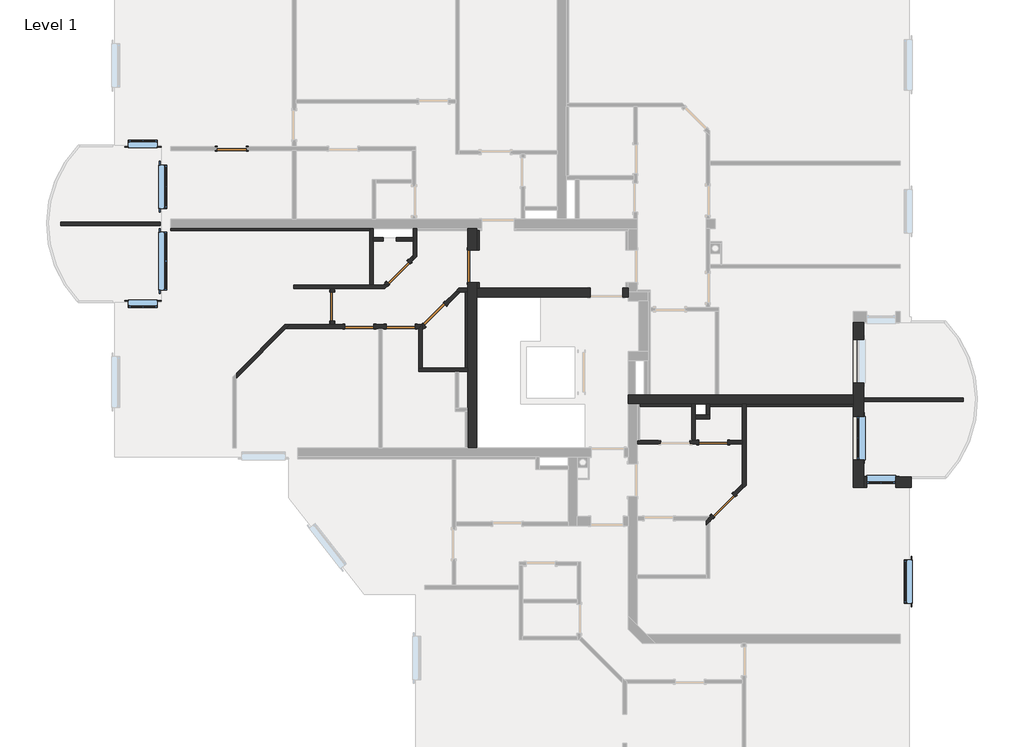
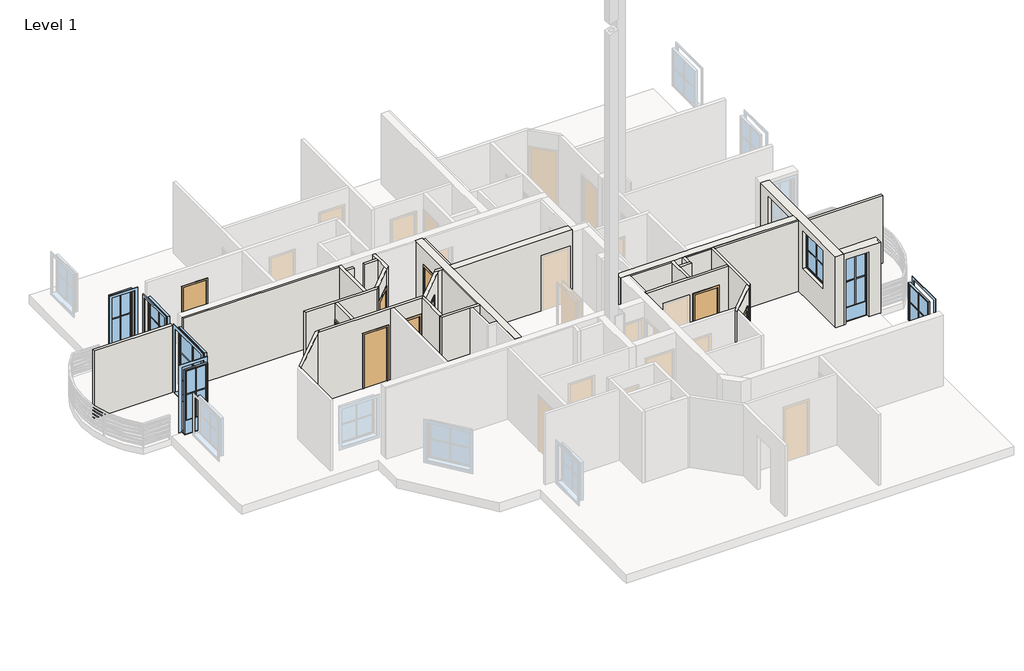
# One storey, part 2 of 4: 32 walls, 9 doors, 7 windows.
"""IFC4 building model written with IfcOpenShell, lengths in millimetres."""

from ifc_helpers import new_model, si_unit, frame, origin, place, context, project, spatial, polyline, outline, extrude, faceted_brep, transform, mapped, element, save
from components import standard_door_sd_800x2000_6a16926d, standard_door_sd_800x2000_80f4ff25, standard_door_sd_900x2000_a6683946, standard_window_with_mullions_80486b60, window_1_87741a49, window_2_4fa60929, window_2_775565f5

model = new_model("IFC4")

# Units and contexts
model_context = context("Model", 3, world=origin())
ifc_project = project(units=[si_unit("LENGTHUNIT", "METRE", prefix="MILLI")], contexts=[model_context])

# Site, building, storey
site = spatial("IfcSite", under=ifc_project)
building = spatial("IfcBuilding", under=site)
storey = spatial("IfcBuildingStorey", under=building, Name="Level 1", Elevation=2950.0)

# Doors
placement = place(None, origin())
standard_door_sd_800x2000_shape = standard_door_sd_800x2000_6a16926d(model_context)
element("IfcDoor", 1, ObjectType="Standard Door : SD 800x2000", at=placement, inside=storey, context=model_context, shape_type="MappedRepresentation", body=[
    mapped(standard_door_sd_800x2000_shape, transform((4190.1336236, -3425.7517839, 2950.0), x_axis=(0.7071067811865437, 0.7071067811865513, 0.0), y_axis=(-0.7071067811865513, 0.7071067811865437, 0.0), z_axis=(0.0, 0.0, 1.0))),
])
element("IfcDoor", 2, ObjectType="Standard Door : SD 800x2000", at=placement, inside=storey, context=model_context, shape_type="MappedRepresentation", body=[
    mapped(standard_door_sd_800x2000_shape, transform((3909.4426418, -1682.3709459, 2950.0), x_axis=(1.0, 0.0, 0.0), y_axis=(0.0, 1.0, 0.0), z_axis=(0.0, 0.0, 1.0))),
])
element("IfcDoor", 3, ObjectType="Standard Door : SD 800x2000", at=placement, inside=storey, context=model_context, shape_type="MappedRepresentation", body=[
    mapped(standard_door_sd_800x2000_shape, transform((-6585.2845029, 2059.6332752, 2950.0), x_axis=(0.0, -0.9999999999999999, 0.0), y_axis=(0.9999999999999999, 0.0, 0.0), z_axis=(0.0, 0.0, 1.0))),
])
element("IfcDoor", 4, ObjectType="Standard Door : SD 800x2000", at=placement, inside=storey, context=model_context, shape_type="MappedRepresentation", body=[
    mapped(standard_door_sd_800x2000_shape, transform((-3761.9880664, 1834.1307468, 2950.0), x_axis=(-0.7071067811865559, -0.7071067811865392, 0.0), y_axis=(0.7071067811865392, -0.7071067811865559, 0.0), z_axis=(0.0, 0.0, 1.0))),
])
element("IfcDoor", 5, ObjectType="Standard Door : SD 800x2000", at=placement, inside=storey, context=model_context, shape_type="MappedRepresentation", body=[
    mapped(standard_door_sd_800x2000_shape, transform((-9362.1962165, 6417.6290541, 2950.0), x_axis=(1.0, 0.0, 0.0), y_axis=(0.0, 1.0, 0.0), z_axis=(0.0, 0.0, 1.0))),
])
standard_door_sd_800x2000_2_shape = standard_door_sd_800x2000_80f4ff25(model_context)
element("IfcDoor", 6, ObjectType="Standard Door : SD 800x2000", at=placement, inside=storey, context=model_context, shape_type="MappedRepresentation", body=[
    mapped(standard_door_sd_800x2000_2_shape, transform((-4767.8017932, 3001.4477772, 2950.0), x_axis=(-0.7071067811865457, -0.7071067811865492, 0.0), y_axis=(0.7071067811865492, -0.7071067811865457, 0.0), z_axis=(0.0, 0.0, 1.0))),
])
element("IfcDoor", 7, ObjectType="Standard Door : SD 800x2000", at=placement, inside=storey, context=model_context, shape_type="MappedRepresentation", body=[
    mapped(standard_door_sd_800x2000_2_shape, transform((-4707.1962173, 1509.6332748, 2950.0), x_axis=(-0.9999999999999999, 0.0, 0.0), y_axis=(0.0, -0.9999999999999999, 0.0), z_axis=(0.0, 0.0, 1.0))),
])
element("IfcDoor", 8, ObjectType="Standard Door : SD 800x2000", at=placement, inside=storey, context=model_context, shape_type="MappedRepresentation", body=[
    mapped(standard_door_sd_800x2000_2_shape, transform((-5844.5664107, 1509.6332748, 2950.0), x_axis=(-0.9999999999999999, 0.0, 0.0), y_axis=(0.0, -0.9999999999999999, 0.0), z_axis=(0.0, 0.0, 1.0))),
])
standard_door_sd_900x2000_shape = standard_door_sd_900x2000_a6683946(model_context)
element("IfcDoor", 9, ObjectType="Standard Door : SD 900x2000", at=placement, inside=storey, context=model_context, shape_type="MappedRepresentation", body=[
    mapped(standard_door_sd_900x2000_shape, transform((-2732.1962165, 3171.1987133, 2950.0), x_axis=(0.0, -0.9999999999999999, 0.0), y_axis=(0.9999999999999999, 0.0, 0.0), z_axis=(0.0, 0.0, 1.0))),
])

# Walls
element("IfcWall", 10, ObjectType="Exterior - 100mm", at=placement, inside=storey, context=model_context, shape_type="SweptSolid", body=[
    extrude(outline(polyline([(-14076.3140436, 4392.6290541), (-11337.1962165, 4392.6290541), (-11337.1962165, 4292.6290541), (-14076.3140436, 4292.6290541), (-14076.3140436, 4392.6290541)])), frame((0.0, 0.0, 2850.0), z_axis=(0.0, 0.0, 1.0), x_axis=(1.0, 0.0, 0.0)), (0.0, 0.0, 1.0), 2500.0),
])
element("IfcWall", 11, ObjectType="Exterior - 100mm", at=placement, inside=storey, context=model_context, shape_type="SweptSolid", body=[
    extrude(outline(polyline([(10801.9216105, -557.3709459), (8062.8037835, -557.3709459), (8062.8037835, -457.3709459), (10801.9216105, -457.3709459), (10801.9216105, -557.3709459)])), frame((0.0, 0.0, 2850.0), z_axis=(0.0, 0.0, 1.0), x_axis=(1.0, 0.0, 0.0)), (0.0, 0.0, 1.0), 2500.0),
])
element("IfcWall", 12, ObjectType="Exterior - 250 + 50mm", at=placement, inside=storey, context=model_context, shape_type="Brep", body=[
    faceted_brep([(7762.8037835, -2932.3709459, 2950.0), (7762.8037835, -697.3709459, 2950.0), (7762.8037835, -632.3709459, 2950.0), (7762.8037835, -382.3709459, 2950.0), (7762.8037835, 1617.6290541, 2950.0), (8062.8037835, 1617.6290541, 2950.0), (8062.8037835, -2632.3709459, 2950.0), (8062.8037835, -2932.3709459, 2950.0), (7762.8037835, -2932.3709459, 5580.0), (7762.8037835, -697.3709459, 5580.0), (7762.8037835, -632.3709459, 5580.0), (7762.8037835, -382.3709459, 5580.0), (7762.8037835, 1617.6290541, 5580.0), (7762.8037835, -963.5367865, 3950.0), (7762.8037835, -963.5367865, 5350.0), (7762.8037835, -2163.5367865, 5350.0), (7762.8037835, -2163.5367865, 3950.0), (7762.8037835, 1155.9947187, 3950.0), (7762.8037835, 1155.9947187, 5350.0), (7762.8037835, -44.0052813, 5350.0), (7762.8037835, -44.0052813, 3950.0), (8062.8037835, 1617.6290541, 5580.0), (8062.8037835, -2632.3709459, 5580.0), (8062.8037835, -2932.3709459, 5580.0), (8062.8037835, -963.5367865, 3950.0), (8062.8037835, -2163.5367865, 3950.0), (8062.8037835, -2163.5367865, 5350.0), (8062.8037835, -963.5367865, 5350.0), (8062.8037835, 1155.9947187, 3950.0), (8062.8037835, -44.0052813, 3950.0), (8062.8037835, -44.0052813, 5350.0), (8062.8037835, 1155.9947187, 5350.0)], [[[0, 1, 2, 3, 4, 5, 6, 7]], [[4, 3, 2, 1, 0, 8, 9, 10, 11, 12], [13, 14, 15, 16], [17, 18, 19, 20]], [[5, 21, 22, 23, 7, 6], [24, 25, 26, 27], [28, 29, 30, 31]], [[4, 12, 21, 5]], [[8, 0, 7, 23]], [[12, 11, 10, 9, 8, 23, 22, 21]], [[14, 13, 24, 27]], [[15, 14, 27, 26]], [[16, 15, 26, 25]], [[13, 16, 25, 24]], [[18, 17, 28, 31]], [[19, 18, 31, 30]], [[20, 19, 30, 29]], [[17, 20, 29, 28]]]),
])
element("IfcWall", 13, ObjectType="Exterior - 250+50mm", at=placement, inside=storey, context=model_context, shape_type="Brep", body=[
    faceted_brep([(9362.8037835, -2932.3709459, 2950.0), (9062.8037835, -2932.3709459, 2950.0), (8932.977935, -2932.3709459, 2950.0), (8932.977935, -2632.3709459, 2950.0), (9362.8037835, -2632.3709459, 2950.0), (9362.8037835, -2782.3709459, 2950.0), (8132.977935, -2932.3709459, 2950.0), (8062.8037835, -2932.3709459, 2950.0), (8062.8037835, -2632.3709459, 2950.0), (8132.977935, -2632.3709459, 2950.0), (8932.977935, -2932.3709459, 5350.0), (9362.8037835, -2932.3709459, 5580.0), (9312.8037835, -2932.3709459, 5580.0), (8062.8037835, -2932.3709459, 5580.0), (8132.977935, -2932.3709459, 5350.0), (8932.977935, -2632.3709459, 5350.0), (8132.977935, -2632.3709459, 5350.0), (8062.8037835, -2632.3709459, 5580.0), (9362.8037835, -2632.3709459, 5580.0), (8062.8037835, -2782.3709459, 5580.0), (9362.8037835, -2682.3709459, 5580.0), (9362.8037835, -2782.3709459, 5580.0), (9312.8037835, -2782.3709459, 5580.0)], [[[0, 1, 2, 3, 4, 5]], [[6, 7, 8, 9]], [[10, 2, 1, 0, 11, 12, 13, 7, 6, 14]], [[4, 3, 15, 16, 9, 8, 17, 18]], [[7, 13, 19, 17, 8]], [[11, 0, 5, 4, 18, 20, 21]], [[12, 11, 21, 22]], [[21, 20, 18, 17, 19, 13, 12, 22]], [[15, 3, 2, 10]], [[16, 15, 10, 14]], [[9, 16, 14, 6]]]),
])
element("IfcWall", 14, ObjectType="Interior - 100mm", at=placement, inside=storey, context=model_context, shape_type="SweptSolid", body=[
    extrude(outline(polyline([(-4827.1962165, 3967.6290541), (-4357.1962165, 3967.6290541), (-4357.1962165, 3867.6290541), (-4827.1962165, 3867.6290541), (-4827.1962165, 3967.6290541)])), frame((0.0, 0.0, 2950.0), z_axis=(0.0, 0.0, 1.0), x_axis=(1.0, 0.0, 0.0)), (0.0, 0.0, 1.0), 2630.0),
])
element("IfcWall", 15, ObjectType="Interior - 100mm", at=placement, inside=storey, context=model_context, shape_type="SweptSolid", body=[
    extrude(outline(polyline([(-5457.1962165, 3967.6290541), (-5187.1962165, 3967.6290541), (-5187.1962165, 3867.6290541), (-5457.1962165, 3867.6290541), (-5457.1962165, 3967.6290541)])), frame((0.0, 0.0, 2950.0), z_axis=(0.0, 0.0, 1.0), x_axis=(1.0, 0.0, 0.0)), (0.0, 0.0, 1.0), 2630.0),
])
element("IfcWall", 16, ObjectType="Interior - 100mm", at=placement, inside=storey, context=model_context, shape_type="Brep", body=[
    faceted_brep([(-5557.1962165, 4217.6290541, 2950.0), (-5557.1962165, 4152.6290541, 2950.0), (-5557.1962165, 2659.6332748, 2950.0), (-5557.1962165, 2659.6332748, 5580.0), (-5557.1962165, 4152.6290541, 5580.0), (-5557.1962165, 4217.6290541, 5580.0), (-5457.1962165, 4217.6290541, 2950.0), (-5457.1962165, 4217.6290541, 5580.0), (-5457.1962165, 3967.6290541, 5580.0), (-5457.1962165, 3867.6290541, 5580.0), (-5457.1962165, 2659.6332748, 5580.0), (-5457.1962165, 2659.6332748, 2950.0), (-5457.1962165, 3867.6290541, 2950.0), (-5457.1962165, 3967.6290541, 2950.0)], [[[0, 1, 2, 3, 4, 5]], [[6, 7, 8, 9, 10, 11, 12, 13]], [[2, 1, 0, 6, 13, 12, 11]], [[0, 5, 7, 6]], [[3, 2, 11, 10]], [[5, 4, 3, 10, 9, 8, 7]]]),
])
element("IfcWall", 17, ObjectType="Interior - 100mm", at=placement, inside=storey, context=model_context, shape_type="Brep", body=[
    faceted_brep([(-4207.1962165, 267.6290541, 2950.0), (-3207.1962165, 267.6290541, 2950.0), (-3107.1962165, 267.6290541, 2950.0), (-2857.1962165, 267.6290541, 2950.0), (-2857.1962165, 267.6290541, 5580.0), (-3107.1962165, 267.6290541, 5580.0), (-3207.1962165, 267.6290541, 5580.0), (-4207.1962165, 267.6290541, 5580.0), (-4207.1962165, 367.6290541, 2950.0), (-4207.1962165, 367.6290541, 5580.0), (-4107.1962165, 367.6290541, 5580.0), (-2922.1962165, 367.6290541, 5580.0), (-2857.1962165, 367.6290541, 5580.0), (-2857.1962165, 367.6290541, 2950.0), (-2922.1962165, 367.6290541, 2950.0), (-4107.1962165, 367.6290541, 2950.0)], [[[0, 1, 2, 3, 4, 5, 6, 7]], [[8, 9, 10, 11, 12, 13, 14, 15]], [[3, 2, 1, 0, 8, 15, 14, 13]], [[0, 7, 9, 8]], [[4, 3, 13, 12]], [[7, 6, 5, 4, 12, 11, 10, 9]]]),
])
element("IfcWall", 18, ObjectType="Interior - 100mm", at=placement, inside=storey, context=model_context, shape_type="Brep", body=[
    faceted_brep([(-4357.1962165, 4217.6290541, 2950.0), (-4357.1962165, 3967.6290541, 2950.0), (-4357.1962165, 3867.6290541, 2950.0), (-4357.1962165, 3482.764032, 2950.0), (-4357.1962165, 3341.3426757, 2950.0), (-4357.1962165, 3341.3426757, 5580.0), (-4357.1962165, 3482.764032, 5580.0), (-4357.1962165, 3867.6290541, 5580.0), (-4357.1962165, 3967.6290541, 5580.0), (-4357.1962165, 4217.6290541, 5580.0), (-4257.1962165, 4217.6290541, 2950.0), (-4257.1962165, 4217.6290541, 5580.0), (-4257.1962165, 3441.3426757, 5580.0), (-4257.1962165, 3441.3426757, 2950.0)], [[[0, 1, 2, 3, 4, 5, 6, 7, 8, 9]], [[10, 11, 12, 13]], [[4, 3, 2, 1, 0, 10, 13]], [[5, 4, 13, 12]], [[0, 9, 11, 10]], [[9, 8, 7, 6, 5, 12, 11]]]),
])
element("IfcWall", 19, ObjectType="Interior - 100mm", at=placement, inside=storey, context=model_context, shape_type="Brep", body=[
    faceted_brep([(-2857.1962165, 2567.6290541, 2950.0), (-3099.2004373, 2567.6290541, 2950.0), (-3099.2004373, 2567.6290541, 5580.0), (-2857.1962165, 2567.6290541, 5580.0), (-2857.1962165, 2467.6290541, 2950.0), (-2857.1962165, 2467.6290541, 5580.0), (-2922.1962165, 2467.6290541, 5580.0), (-3057.779081, 2467.6290541, 5580.0), (-3199.2004373, 2467.6290541, 5580.0), (-3199.2004373, 2467.6290541, 2950.0), (-3057.779081, 2467.6290541, 2950.0), (-2922.1962165, 2467.6290541, 2950.0)], [[[0, 1, 2, 3]], [[4, 5, 6, 7, 8, 9, 10, 11]], [[1, 0, 4, 11, 10, 9]], [[2, 1, 9, 8]], [[0, 3, 5, 4]], [[3, 2, 8, 7, 6, 5]]]),
])
element("IfcWall", 20, ObjectType="Interior - 100mm", at=placement, inside=storey, context=model_context, shape_type="Brep", body=[
    faceted_brep([(-4207.1962165, 1459.6332748, 2950.0), (-4207.1962165, 367.6290541, 2950.0), (-4207.1962165, 367.6290541, 5580.0), (-4207.1962165, 1459.6332748, 5580.0), (-4107.1962165, 1559.6332748, 2950.0), (-4107.1962165, 1559.6332748, 5580.0), (-4107.1962165, 1418.2119186, 5580.0), (-4107.1962165, 367.6290541, 5580.0), (-4107.1962165, 367.6290541, 2950.0), (-4107.1962165, 1418.2119186, 2950.0)], [[[0, 1, 2, 3]], [[4, 5, 6, 7, 8, 9]], [[1, 0, 4, 9, 8]], [[0, 3, 5, 4]], [[2, 1, 8, 7]], [[3, 2, 7, 6, 5]]]),
])
element("IfcWall", 21, ObjectType="Interior - 100mm", at=placement, inside=storey, context=model_context, shape_type="Brep", body=[
    faceted_brep([(4712.8037835, -632.3709459, 2950.0), (4712.8037835, -697.3709459, 2950.0), (4712.8037835, -1632.3709459, 2950.0), (4712.8037835, -1732.3709459, 2950.0), (4712.8037835, -2832.3709459, 2950.0), (4712.8037835, -2973.7923022, 2950.0), (4712.8037835, -2973.7923022, 5580.0), (4712.8037835, -2832.3709459, 5580.0), (4712.8037835, -1732.3709459, 5580.0), (4712.8037835, -1632.3709459, 5580.0), (4712.8037835, -697.3709459, 5580.0), (4712.8037835, -632.3709459, 5580.0), (4812.8037835, -632.3709459, 2950.0), (4812.8037835, -632.3709459, 5580.0), (4812.8037835, -697.3709459, 5580.0), (4812.8037835, -2873.7923022, 5580.0), (4812.8037835, -2873.7923022, 2950.0), (4812.8037835, -697.3709459, 2950.0)], [[[0, 1, 2, 3, 4, 5, 6, 7, 8, 9, 10, 11]], [[12, 13, 14, 15, 16, 17]], [[5, 4, 3, 2, 1, 0, 12, 17, 16]], [[6, 5, 16, 15]], [[0, 11, 13, 12]], [[11, 10, 9, 8, 7, 6, 15, 14, 13]]]),
])
element("IfcWall", 22, ObjectType="Interior - 100mm", at=placement, inside=storey, context=model_context, shape_type="Brep", body=[
    faceted_brep([(4712.8037835, -2973.7923022, 2950.0), (4508.3316751, -3178.2644105, 2950.0), (4437.620997, -3107.5537324, 2950.0), (4712.8037835, -2832.3709459, 2950.0), (3942.6462502, -3743.9498355, 2950.0), (3812.8037835, -3873.7923022, 2950.0), (3712.8037835, -3973.7923022, 2950.0), (3712.8037835, -3832.3709459, 2950.0), (3812.8037835, -3732.3709459, 2950.0), (3871.935572, -3673.2391573, 2950.0), (4437.620997, -3107.5537324, 4950.0), (3871.935572, -3673.2391573, 4950.0), (3712.8037835, -3832.3709459, 5580.0), (3812.8037835, -3732.3709459, 5580.0), (4712.8037835, -2832.3709459, 5580.0), (4508.3316751, -3178.2644105, 4950.0), (4712.8037835, -2973.7923022, 5580.0), (3812.8037835, -3873.7923022, 5580.0), (3712.8037835, -3973.7923022, 5580.0), (3942.6462502, -3743.9498355, 4950.0)], [[[0, 1, 2, 3]], [[4, 5, 6, 7, 8, 9]], [[3, 2, 10, 11, 9, 8, 7, 12, 13, 14]], [[15, 1, 0, 16, 17, 18, 6, 5, 4, 19]], [[3, 14, 16, 0]], [[12, 7, 6, 18]], [[14, 13, 12, 18, 17, 16]], [[10, 2, 1, 15]], [[11, 10, 15, 19]], [[9, 11, 19, 4]]]),
])
element("IfcWall", 23, ObjectType="Interior - 100mm", at=placement, inside=storey, context=model_context, shape_type="Brep", body=[
    faceted_brep([(4712.8037835, -1732.3709459, 2950.0), (4309.4426418, -1732.3709459, 2950.0), (4309.4426418, -1632.3709459, 2950.0), (4712.8037835, -1632.3709459, 2950.0), (1812.8079235, -1632.3709459, 2950.0), (1877.8037835, -1632.3709459, 2950.0), (2465.7332503, -1632.3709459, 2950.0), (2465.7332503, -1732.3709459, 2950.0), (1812.8078421, -1732.3709459, 2950.0), (3265.7332503, -1632.3709459, 2950.0), (3312.8037835, -1632.3709459, 2950.0), (3412.8037835, -1632.3709459, 2950.0), (3509.4426418, -1632.3709459, 2950.0), (3509.4426418, -1732.3709459, 2950.0), (3265.7332503, -1732.3709459, 2950.0), (2465.7332503, -1632.3709459, 4950.0), (1812.8079235, -1632.3709459, 5580.0), (1877.8037835, -1632.3709459, 5580.0), (3312.8037835, -1632.3709459, 5580.0), (3412.8037835, -1632.3709459, 5580.0), (4712.8037835, -1632.3709459, 5580.0), (4309.4426418, -1632.3709459, 4950.0), (3509.4426418, -1632.3709459, 4950.0), (3265.7332503, -1632.3709459, 4950.0), (2465.7332503, -1732.3709459, 4950.0), (3265.7332503, -1732.3709459, 4950.0), (3509.4426418, -1732.3709459, 4950.0), (4309.4426418, -1732.3709459, 4950.0), (4712.8037835, -1732.3709459, 5580.0), (1812.8078421, -1732.3709459, 5580.0)], [[[0, 1, 2, 3]], [[4, 5, 6, 7, 8]], [[9, 10, 11, 12, 13, 14]], [[15, 6, 5, 4, 16, 17, 18, 19, 20, 3, 2, 21, 22, 12, 11, 10, 9, 23]], [[8, 7, 24, 25, 14, 13, 26, 27, 1, 0, 28, 29]], [[16, 4, 8, 29]], [[3, 20, 28, 0]], [[20, 19, 18, 17, 16, 29, 28]], [[21, 2, 1, 27]], [[22, 21, 27, 26]], [[12, 22, 26, 13]], [[24, 7, 6, 15]], [[25, 24, 15, 23]], [[14, 25, 23, 9]]]),
])
element("IfcWall", 24, ObjectType="Interior - 100mm", at=placement, inside=storey, context=model_context, shape_type="Brep", body=[
    faceted_brep([(3312.8037835, -632.3709459, 2950.0), (3312.8037835, -697.3709459, 2950.0), (3312.8037835, -1632.3709459, 2950.0), (3312.8037835, -1632.3709459, 5580.0), (3312.8037835, -697.3709459, 5580.0), (3312.8037835, -632.3709459, 5580.0), (3412.8037835, -632.3709459, 2950.0), (3412.8037835, -632.3709459, 5580.0), (3412.8037835, -932.3709459, 5580.0), (3412.8037835, -1032.3709459, 5580.0), (3412.8037835, -1632.3709459, 5580.0), (3412.8037835, -1632.3709459, 2950.0), (3412.8037835, -1032.3709459, 2950.0), (3412.8037835, -932.3709459, 2950.0)], [[[0, 1, 2, 3, 4, 5]], [[6, 7, 8, 9, 10, 11, 12, 13]], [[2, 1, 0, 6, 13, 12, 11]], [[0, 5, 7, 6]], [[3, 2, 11, 10]], [[5, 4, 3, 10, 9, 8, 7]]]),
])
element("IfcWall", 25, ObjectType="Interior - 100mm", at=placement, inside=storey, context=model_context, shape_type="Brep", body=[
    faceted_brep([(3412.8037835, -1032.3709459, 2950.0), (3812.8037835, -1032.3709459, 2950.0), (3812.8037835, -1032.3709459, 5580.0), (3412.8037835, -1032.3709459, 5580.0), (3412.8037835, -932.3709459, 2950.0), (3412.8037835, -932.3709459, 5580.0), (3712.8037835, -932.3709459, 5580.0), (3812.8037835, -932.3709459, 5580.0), (3812.8037835, -932.3709459, 2950.0), (3712.8037835, -932.3709459, 2950.0)], [[[0, 1, 2, 3]], [[4, 5, 6, 7, 8, 9]], [[1, 0, 4, 9, 8]], [[2, 1, 8, 7]], [[0, 3, 5, 4]], [[3, 2, 7, 6, 5]]]),
])
element("IfcWall", 26, ObjectType="Interior - 100mm", at=placement, inside=storey, context=model_context, shape_type="Brep", body=[
    faceted_brep([(3812.8037835, -932.3709459, 2950.0), (3812.8037835, -697.3709459, 2950.0), (3812.8037835, -632.3709459, 2950.0), (3812.8037835, -632.3709459, 5580.0), (3812.8037835, -697.3709459, 5580.0), (3812.8037835, -932.3709459, 5580.0), (3712.8037835, -932.3709459, 2950.0), (3712.8037835, -932.3709459, 5580.0), (3712.8037835, -632.3709459, 5580.0), (3712.8037835, -632.3709459, 2950.0)], [[[0, 1, 2, 3, 4, 5]], [[6, 7, 8, 9]], [[2, 1, 0, 6, 9]], [[0, 5, 7, 6]], [[3, 2, 9, 8]], [[5, 4, 3, 8, 7]]]),
])
element("IfcWall", 27, ObjectType="Interior - 100mm", at=placement, inside=storey, context=model_context, shape_type="Brep", body=[
    faceted_brep([(-4107.1962165, 1559.6332748, 2950.0), (-4080.186118, 1586.6433734, 2950.0), (-4009.4754398, 1515.9326953, 2950.0), (-4107.1962165, 1418.2119186, 2950.0), (-3514.500693, 2152.3287984, 2950.0), (-3199.2004373, 2467.6290541, 2950.0), (-3057.779081, 2467.6290541, 2950.0), (-3443.7900149, 2081.6181202, 2950.0), (-4080.186118, 1586.6433734, 4950.0), (-4107.1962165, 1559.6332748, 5580.0), (-3199.2004373, 2467.6290541, 5580.0), (-3514.500693, 2152.3287984, 4950.0), (-4009.4754398, 1515.9326953, 4950.0), (-3443.7900149, 2081.6181202, 4950.0), (-3057.779081, 2467.6290541, 5580.0), (-4107.1962165, 1418.2119186, 5580.0)], [[[0, 1, 2, 3]], [[4, 5, 6, 7]], [[8, 1, 0, 9, 10, 5, 4, 11]], [[3, 2, 12, 13, 7, 6, 14, 15]], [[9, 0, 3, 15]], [[5, 10, 14, 6]], [[10, 9, 15, 14]], [[12, 2, 1, 8]], [[13, 12, 8, 11]], [[7, 13, 11, 4]]]),
])
element("IfcWall", 28, ObjectType="Interior - 100mm", at=placement, inside=storey, context=model_context, shape_type="Brep", body=[
    faceted_brep([(-9237.1962165, 79.390695, 2950.0), (-7856.9536367, 1459.6332748, 2950.0), (-7756.9536367, 1559.6332748, 2950.0), (-7756.9536367, 1559.6332748, 5580.0), (-7856.9536367, 1459.6332748, 5580.0), (-9237.1962165, 79.390695, 5580.0), (-9237.1962165, 220.8120513, 2950.0), (-9237.1962165, 220.8120513, 5580.0), (-7898.374993, 1559.6332748, 5580.0), (-7898.374993, 1559.6332748, 2950.0)], [[[0, 1, 2, 3, 4, 5]], [[6, 7, 8, 9]], [[2, 1, 0, 6, 9]], [[3, 2, 9, 8]], [[0, 5, 7, 6]], [[5, 4, 3, 8, 7]]]),
])
element("IfcWall", 29, ObjectType="Interior - 100mm", at=placement, inside=storey, context=model_context, shape_type="Brep", body=[
    faceted_brep([(-7756.9536367, 1559.6332748, 2950.0), (-6635.2845029, 1559.6332748, 2950.0), (-6535.2845029, 1559.6332748, 2950.0), (-6244.5664107, 1559.6332748, 2950.0), (-6244.5664107, 1459.6332748, 2950.0), (-7856.9536367, 1459.6332748, 2950.0), (-4307.1962173, 1559.6332748, 2950.0), (-4107.1962165, 1559.6332748, 2950.0), (-4207.1962165, 1459.6332748, 2950.0), (-4307.1962173, 1459.6332748, 2950.0), (-5444.5664107, 1559.6332748, 2950.0), (-5107.1962173, 1559.6332748, 2950.0), (-5107.1962173, 1459.6332748, 2950.0), (-5207.1962165, 1459.6332748, 2950.0), (-5307.1962165, 1459.6332748, 2950.0), (-5444.5664107, 1459.6332748, 2950.0), (-6244.5664107, 1459.6332748, 4950.0), (-5444.5664107, 1459.6332748, 4950.0), (-5107.1962173, 1459.6332748, 4950.0), (-4307.1962173, 1459.6332748, 4950.0), (-4207.1962165, 1459.6332748, 5580.0), (-5207.1962165, 1459.6332748, 5580.0), (-5307.1962165, 1459.6332748, 5580.0), (-7856.9536367, 1459.6332748, 5580.0), (-6244.5664107, 1559.6332748, 4950.0), (-7756.9536367, 1559.6332748, 5580.0), (-6635.2845029, 1559.6332748, 5580.0), (-6535.2845029, 1559.6332748, 5580.0), (-4107.1962165, 1559.6332748, 5580.0), (-4307.1962173, 1559.6332748, 4950.0), (-5107.1962173, 1559.6332748, 4950.0), (-5444.5664107, 1559.6332748, 4950.0)], [[[0, 1, 2, 3, 4, 5]], [[6, 7, 8, 9]], [[10, 11, 12, 13, 14, 15]], [[5, 4, 16, 17, 15, 14, 13, 12, 18, 19, 9, 8, 20, 21, 22, 23]], [[24, 3, 2, 1, 0, 25, 26, 27, 28, 7, 6, 29, 30, 11, 10, 31]], [[20, 8, 7, 28]], [[5, 23, 25, 0]], [[23, 22, 21, 20, 28, 27, 26, 25]], [[18, 12, 11, 30]], [[19, 18, 30, 29]], [[9, 19, 29, 6]], [[16, 4, 3, 24]], [[17, 16, 24, 31]], [[15, 17, 31, 10]]]),
])
element("IfcWall", 30, ObjectType="Interior - 100mm", at=placement, inside=storey, context=model_context, shape_type="Brep", body=[
    faceted_brep([(-7657.1962165, 2559.6332748, 2950.0), (-6635.2845029, 2559.6332748, 2950.0), (-6535.2845029, 2559.6332748, 2950.0), (-5138.9056174, 2559.6332748, 2950.0), (-5138.9056174, 2559.6332748, 5580.0), (-6535.2845029, 2559.6332748, 5580.0), (-6635.2845029, 2559.6332748, 5580.0), (-7657.1962165, 2559.6332748, 5580.0), (-7657.1962165, 2659.6332748, 2950.0), (-7657.1962165, 2659.6332748, 5580.0), (-5557.1962165, 2659.6332748, 5580.0), (-5457.1962165, 2659.6332748, 5580.0), (-5180.3269737, 2659.6332748, 5580.0), (-5038.9056174, 2659.6332748, 5580.0), (-5038.9056174, 2659.6332748, 2950.0), (-5180.3269737, 2659.6332748, 2950.0), (-5457.1962165, 2659.6332748, 2950.0), (-5557.1962165, 2659.6332748, 2950.0)], [[[0, 1, 2, 3, 4, 5, 6, 7]], [[8, 9, 10, 11, 12, 13, 14, 15, 16, 17]], [[3, 2, 1, 0, 8, 17, 16, 15, 14]], [[0, 7, 9, 8]], [[4, 3, 14, 13]], [[7, 6, 5, 4, 13, 12, 11, 10, 9]]]),
])
element("IfcWall", 31, ObjectType="Interior - 100mm", at=placement, inside=storey, context=model_context, shape_type="Brep", body=[
    faceted_brep([(-5180.3269737, 2659.6332748, 2950.0), (-5085.9998447, 2753.9604038, 2950.0), (-5015.2891666, 2683.2497257, 2950.0), (-5038.9056174, 2659.6332748, 2950.0), (-4520.3144197, 3319.6458288, 2950.0), (-4357.1962165, 3482.764032, 2950.0), (-4357.1962165, 3341.3426757, 2950.0), (-4449.6037416, 3248.9351507, 2950.0), (-5015.2891666, 2683.2497257, 4950.0), (-4449.6037416, 3248.9351507, 4950.0), (-4357.1962165, 3341.3426757, 5580.0), (-5038.9056174, 2659.6332748, 5580.0), (-5085.9998447, 2753.9604038, 4950.0), (-5180.3269737, 2659.6332748, 5580.0), (-4357.1962165, 3482.764032, 5580.0), (-4520.3144197, 3319.6458288, 4950.0)], [[[0, 1, 2, 3]], [[4, 5, 6, 7]], [[3, 2, 8, 9, 7, 6, 10, 11]], [[12, 1, 0, 13, 14, 5, 4, 15]], [[10, 6, 5, 14]], [[3, 11, 13, 0]], [[11, 10, 14, 13]], [[8, 2, 1, 12]], [[9, 8, 12, 15]], [[7, 9, 15, 4]]]),
])
element("IfcWall", 32, ObjectType="Interior - 100mm", at=placement, inside=storey, context=model_context, shape_type="SweptSolid", body=[
    extrude(outline(polyline([(1659.6332752, 4950.0), (1659.6332752, 2950.0), (1559.6332748, 2950.0), (1559.6332748, 5580.0), (2559.6332748, 5580.0), (2559.6332748, 2950.0), (2459.6332752, 2950.0), (2459.6332752, 4950.0), (1659.6332752, 4950.0)])), frame((-6635.2845029, 0.0, 0.0), z_axis=(1.0, 0.0, 0.0), x_axis=(0.0, 1.0, 0.0)), (0.0, 0.0, 1.0), 100.0),
])
element("IfcWall", 33, ObjectType="Interior - 250mm", at=placement, inside=storey, context=model_context, shape_type="Brep", body=[
    faceted_brep([(7762.8037835, -382.3709459, 2950.0), (4062.8037835, -382.3709459, 2950.0), (3962.8037835, -382.3709459, 2950.0), (2177.8037835, -382.3709459, 2950.0), (2112.8037835, -382.3709459, 2950.0), (2012.8037835, -382.3709459, 2950.0), (1762.8087381, -382.3709459, 2950.0), (1562.8087381, -382.3709459, 2950.0), (1562.8087381, -382.3709459, 5580.0), (1762.8087381, -382.3709459, 5580.0), (2012.8037835, -382.3709459, 5580.0), (2112.8037835, -382.3709459, 5580.0), (2177.8037835, -382.3709459, 5580.0), (3962.8037835, -382.3709459, 5580.0), (4062.8037835, -382.3709459, 5580.0), (7762.8037835, -382.3709459, 5580.0), (7762.8037835, -632.3709459, 2950.0), (7762.8037835, -632.3709459, 5580.0), (4812.8037835, -632.3709459, 5580.0), (4712.8037835, -632.3709459, 5580.0), (3812.8037835, -632.3709459, 5580.0), (3712.8037835, -632.3709459, 5580.0), (3412.8037835, -632.3709459, 5580.0), (3312.8037835, -632.3709459, 5580.0), (1812.8087381, -632.3709459, 5580.0), (1562.8087381, -632.3709459, 5580.0), (1562.8087381, -632.3709459, 2950.0), (1812.8087381, -632.3709459, 2950.0), (3312.8037835, -632.3709459, 2950.0), (3412.8037835, -632.3709459, 2950.0), (3712.8037835, -632.3709459, 2950.0), (3812.8037835, -632.3709459, 2950.0), (4712.8037835, -632.3709459, 2950.0), (4812.8037835, -632.3709459, 2950.0)], [[[0, 1, 2, 3, 4, 5, 6, 7, 8, 9, 10, 11, 12, 13, 14, 15]], [[16, 17, 18, 19, 20, 21, 22, 23, 24, 25, 26, 27, 28, 29, 30, 31, 32, 33]], [[7, 6, 5, 4, 3, 2, 1, 0, 16, 33, 32, 31, 30, 29, 28, 27, 26]], [[8, 7, 26, 25]], [[0, 15, 17, 16]], [[15, 14, 13, 12, 11, 10, 9, 8, 25, 24, 23, 22, 21, 20, 19, 18, 17]]]),
])
element("IfcWall", 34, ObjectType="Interior - 250mm", at=placement, inside=storey, context=model_context, shape_type="Brep", body=[
    faceted_brep([(-2607.1962165, 2567.6290541, 2950.0), (-2542.1962165, 2567.6290541, 2950.0), (517.0786115, 2567.6290541, 2950.0), (517.0786115, 2317.6290541, 2950.0), (-2607.1962165, 2317.6290541, 2950.0), (1417.0786115, 2567.6290541, 2950.0), (1497.8037835, 2567.6290541, 2950.0), (1562.8037835, 2567.6290541, 2950.0), (1562.8037835, 2467.6290541, 2950.0), (1562.8037835, 2317.6290541, 2950.0), (1417.0786115, 2317.6290541, 2950.0), (517.0786115, 2567.6290541, 4950.0), (-2607.1962165, 2567.6290541, 5580.0), (-2542.1962165, 2567.6290541, 5580.0), (1497.8037835, 2567.6290541, 5580.0), (1562.8037835, 2567.6290541, 5580.0), (1417.0786115, 2567.6290541, 4950.0), (517.0786115, 2317.6290541, 4950.0), (1417.0786115, 2317.6290541, 4950.0), (1562.8037835, 2317.6290541, 5580.0), (-857.1962165, 2317.6290541, 5580.0), (-2607.1962165, 2317.6290541, 5580.0), (1562.8037835, 2467.6290541, 5580.0)], [[[0, 1, 2, 3, 4]], [[5, 6, 7, 8, 9, 10]], [[11, 2, 1, 0, 12, 13, 14, 15, 7, 6, 5, 16]], [[4, 3, 17, 18, 10, 9, 19, 20, 21]], [[7, 15, 22, 19, 9, 8]], [[12, 0, 4, 21]], [[15, 14, 13, 12, 21, 20, 19, 22]], [[17, 3, 2, 11]], [[18, 17, 11, 16]], [[10, 18, 16, 5]]]),
])
element("IfcWall", 35, ObjectType="Interior - 250mm", at=placement, inside=storey, context=model_context, shape_type="Brep", body=[
    faceted_brep([(-2857.1962165, -1832.3709459, 2950.0), (-2857.1962165, -832.3709459, 2950.0), (-2857.1962165, -732.3709459, 2950.0), (-2857.1962165, 267.6290541, 2950.0), (-2857.1962165, 367.6290541, 2950.0), (-2857.1962165, 2467.6290541, 2950.0), (-2857.1962165, 2567.6290541, 2950.0), (-2857.1962165, 2721.1987133, 2950.0), (-2607.1962165, 2721.1987133, 2950.0), (-2607.1962165, 2567.6290541, 2950.0), (-2607.1962165, 2317.6290541, 2950.0), (-2607.1962165, -1832.3709459, 2950.0), (-2857.1962165, 3621.1987133, 2950.0), (-2857.1962165, 4152.6290541, 2950.0), (-2857.1962165, 4217.6290541, 2950.0), (-2607.1962165, 4217.6290541, 2950.0), (-2607.1962165, 4152.6290541, 2950.0), (-2607.1962165, 3621.1987133, 2950.0), (-2857.1962165, 2721.1987133, 4950.0), (-2857.1962165, -1832.3709459, 5580.0), (-2857.1962165, -832.3709459, 5580.0), (-2857.1962165, -732.3709459, 5580.0), (-2857.1962165, 267.6290541, 5580.0), (-2857.1962165, 367.6290541, 5580.0), (-2857.1962165, 2467.6290541, 5580.0), (-2857.1962165, 2567.6290541, 5580.0), (-2857.1962165, 4152.6290541, 5580.0), (-2857.1962165, 4217.6290541, 5580.0), (-2857.1962165, 3621.1987133, 4950.0), (-2607.1962165, 2721.1987133, 4950.0), (-2607.1962165, 3621.1987133, 4950.0), (-2607.1962165, 4217.6290541, 5580.0), (-2607.1962165, 4152.6290541, 5580.0), (-2607.1962165, 2567.6290541, 5580.0), (-2607.1962165, 2317.6290541, 5580.0), (-2607.1962165, -1832.3709459, 5580.0)], [[[0, 1, 2, 3, 4, 5, 6, 7, 8, 9, 10, 11]], [[12, 13, 14, 15, 16, 17]], [[18, 7, 6, 5, 4, 3, 2, 1, 0, 19, 20, 21, 22, 23, 24, 25, 26, 27, 14, 13, 12, 28]], [[11, 10, 9, 8, 29, 30, 17, 16, 15, 31, 32, 33, 34, 35]], [[19, 0, 11, 35]], [[14, 27, 31, 15]], [[27, 26, 25, 24, 23, 22, 21, 20, 19, 35, 34, 33, 32, 31]], [[29, 8, 7, 18]], [[30, 29, 18, 28]], [[17, 30, 28, 12]]]),
])
element("IfcWall", 36, ObjectType="Interior - 65mm", at=placement, inside=storey, context=model_context, shape_type="SweptSolid", body=[
    extrude(outline(polyline([(-2922.1962165, 367.6290541), (-2922.1962165, 2467.6290541), (-2857.1962165, 2467.6290541), (-2857.1962165, 367.6290541), (-2922.1962165, 367.6290541)])), frame((0.0, 0.0, 2950.0), z_axis=(0.0, 0.0, 1.0), x_axis=(1.0, 0.0, 0.0)), (0.0, 0.0, 1.0), 2630.0),
])
element("IfcWall", 37, ObjectType="Interior - 65mm", at=placement, inside=storey, context=model_context, shape_type="SweptSolid", body=[
    extrude(outline(polyline([(3312.8037835, -697.3709459), (1877.8037835, -697.3709459), (1877.8037835, -632.3709459), (3312.8037835, -632.3709459), (3312.8037835, -697.3709459)])), frame((0.0, 0.0, 2950.0), z_axis=(0.0, 0.0, 1.0), x_axis=(1.0, 0.0, 0.0)), (0.0, 0.0, 1.0), 2630.0),
])
element("IfcWall", 38, ObjectType="Interior - 65mm", at=placement, inside=storey, context=model_context, shape_type="SweptSolid", body=[
    extrude(outline(polyline([(4712.8037835, -697.3709459), (3812.8037835, -697.3709459), (3812.8037835, -632.3709459), (4712.8037835, -632.3709459), (4712.8037835, -697.3709459)])), frame((0.0, 0.0, 2950.0), z_axis=(0.0, 0.0, 1.0), x_axis=(1.0, 0.0, 0.0)), (0.0, 0.0, 1.0), 2630.0),
])
element("IfcWall", 39, ObjectType="Interior - 65mm", at=placement, inside=storey, context=model_context, shape_type="SweptSolid", body=[
    extrude(outline(polyline([(7762.8037835, -697.3709459), (4812.8037835, -697.3709459), (4812.8037835, -632.3709459), (7762.8037835, -632.3709459), (7762.8037835, -697.3709459)])), frame((0.0, 0.0, 2950.0), z_axis=(0.0, 0.0, 1.0), x_axis=(1.0, 0.0, 0.0)), (0.0, 0.0, 1.0), 2630.0),
])
element("IfcWall", 40, ObjectType="Interior - 65mm", at=placement, inside=storey, context=model_context, shape_type="SweptSolid", body=[
    extrude(outline(polyline([(2721.1987133, 4950.0), (2721.1987133, 2950.0), (2567.6290541, 2950.0), (2567.6290541, 5580.0), (4152.6290541, 5580.0), (4152.6290541, 2950.0), (3621.1987133, 2950.0), (3621.1987133, 4950.0), (2721.1987133, 4950.0)])), frame((-2607.1962165, 0.0, 0.0), z_axis=(1.0, 0.0, 0.0), x_axis=(0.0, 1.0, 0.0)), (0.0, 0.0, 1.0), 65.0),
])
element("IfcWall", 41, ObjectType="Interior - 65mm", at=placement, inside=storey, context=model_context, shape_type="SweptSolid", body=[
    extrude(outline(polyline([(-11037.1962165, 4217.6290541), (-5557.1962165, 4217.6290541), (-5557.1962165, 4152.6290541), (-11037.1962165, 4152.6290541), (-11037.1962165, 4217.6290541)])), frame((0.0, 0.0, 2950.0), z_axis=(0.0, 0.0, 1.0), x_axis=(1.0, 0.0, 0.0)), (0.0, 0.0, 1.0), 2630.0),
])

# Windows
standard_window_with_mullions_shape = standard_window_with_mullions_80486b60(model_context)
element("IfcWindow", 42, ObjectType="Standard Window with mullions : 1200/1400", at=placement, inside=storey, context=model_context, shape_type="MappedRepresentation", body=[
    mapped(standard_window_with_mullions_shape, transform((-11187.1962165, 5367.6290548, 2950.0), x_axis=(0.0, 1.0, 0.0), y_axis=(-1.0, 0.0, 0.0), z_axis=(0.0, 0.0, 1.0))),
])
element("IfcWindow", 43, ObjectType="Standard Window with mullions : 1200/1400", at=placement, inside=storey, context=model_context, shape_type="MappedRepresentation", body=[
    mapped(standard_window_with_mullions_shape, transform((7912.8037835, -1563.5367865, 2950.0), x_axis=(0.0, -1.0, 0.0), y_axis=(1.0, 0.0, 0.0), z_axis=(0.0, 0.0, 1.0))),
])
element("IfcWindow", 44, ObjectType="Standard Window with mullions : 1200/1400", at=placement, inside=storey, context=model_context, shape_type="MappedRepresentation", body=[
    mapped(standard_window_with_mullions_shape, transform((9212.8037835, -5524.0530367, 2950.0), x_axis=(0.0, -1.0, 0.0), y_axis=(1.0, 0.0, 0.0), z_axis=(0.0, 0.0, 1.0))),
])
window_1_shape = window_1_87741a49(model_context)
element("IfcWindow", 45, ObjectType="Window 1 : 1600/2400", at=placement, inside=storey, context=model_context, shape_type="MappedRepresentation", body=[
    mapped(window_1_shape, transform((-11187.1962165, 3317.6290559, 2950.0), x_axis=(0.0, 1.0, 0.0), y_axis=(-1.0, 0.0, 0.0), z_axis=(0.0, 0.0, 1.0))),
])
window_2_shape = window_2_4fa60929(model_context)
element("IfcWindow", 46, ObjectType="Window 2 : 800/2400", at=placement, inside=storey, context=model_context, shape_type="MappedRepresentation", body=[
    mapped(window_2_shape, transform((-11807.3703663, 2067.6290541, 2950.0), x_axis=(1.0, 0.0, 0.0), y_axis=(0.0, 1.0, 0.0), z_axis=(0.0, 0.0, 1.0))),
])
window_2_2_shape = window_2_775565f5(model_context)
element("IfcWindow", 47, ObjectType="Window 2 : 800/2400", at=placement, inside=storey, context=model_context, shape_type="MappedRepresentation", body=[
    mapped(window_2_2_shape, transform((-11807.370388, 6617.6290541, 2950.0), x_axis=(1.0, 0.0, 0.0), y_axis=(0.0, 1.0, 0.0), z_axis=(0.0, 0.0, 1.0))),
])
element("IfcWindow", 48, ObjectType="Window 2 : 800/2400", at=placement, inside=storey, context=model_context, shape_type="MappedRepresentation", body=[
    mapped(window_2_2_shape, transform((8532.977935, -2782.3709459, 2950.0), x_axis=(-1.0, 0.0, 0.0), y_axis=(0.0, -1.0, 0.0), z_axis=(0.0, 0.0, 1.0))),
])

save(model, "model.ifc")
